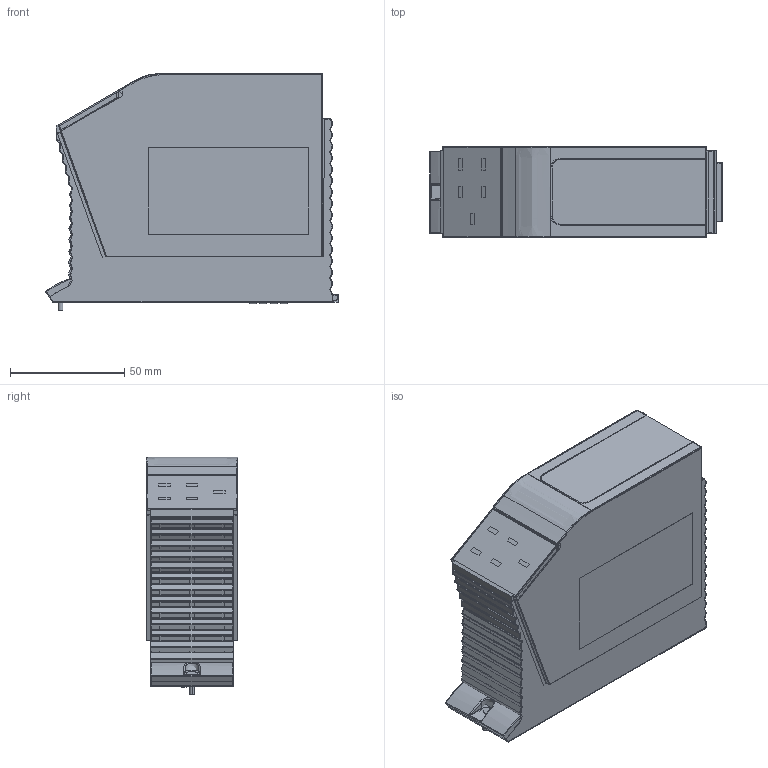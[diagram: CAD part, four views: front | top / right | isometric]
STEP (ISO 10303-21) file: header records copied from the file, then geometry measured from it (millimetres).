
FILE_DESCRIPTION((''),'2;1');
FILE_NAME('PRT0006','2011-03-03T',('Vincent_Huang'),(''),'PRO/ENGINEER BY PARAMETRIC TECHNOLOGY CORPORATION, 2004320','PRO/ENGINEER BY PARAMETRIC TECHNOLOGY CORPORATION, 2004320','');
FILE_SCHEMA(('CONFIG_CONTROL_DESIGN'));
Products named in the file (1): PRT0006
Bounding box: 127.8 x 40 x 103.83 mm (x, y, z)
Volume: 149413.7 mm3; surface area: 237962.6 mm2
Topology: 8 solids, 19 shells, 3074 faces, 8378 edges, 5400 vertices
Faces by surface type: plane 2288, cylinder 553, torus 133, bspline 36, cone 35, sphere 16, extrusion 11, revolution 2
Entity records: 97934 total; most frequent: CARTESIAN_POINT 18944, ORIENTED_EDGE 16649, DIRECTION 15698, EDGE_CURVE 8370, VECTOR 6822, LINE 6811, VERTEX_POINT 5398, AXIS2_PLACEMENT_3D 4437
